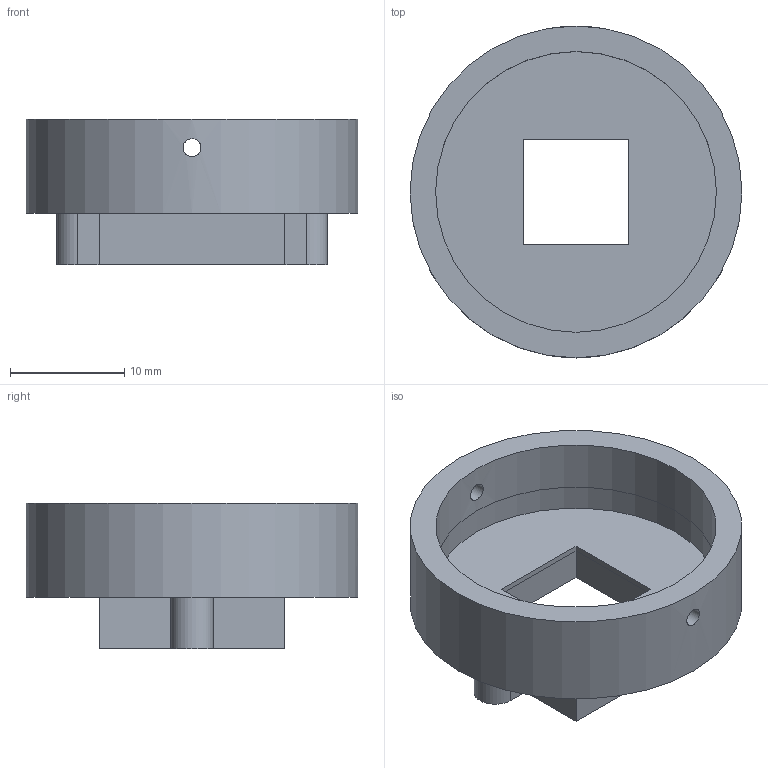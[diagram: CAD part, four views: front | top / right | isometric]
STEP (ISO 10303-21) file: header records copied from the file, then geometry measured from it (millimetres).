
FILE_DESCRIPTION( ( 'M12 LENS HOLDER' ), '1' );
FILE_NAME( 'D:/DropBox/Personal/M12 Lenses/TechData/SolidModels/PT-LH013CSM/PT-LH013CSM.stp', 'Unknown', ( 'Tharaka Goonetilleke' ), ( 'M12 Lenses Inc.' ), 'PSStep 13.0', 'Unknown', ' ' );
FILE_SCHEMA( ( 'AUTOMOTIVE_DESIGN { 1 0 10303 214 1 1 1 1 }' ) );
Length unit declared in the file: millimetre
Products named in the file (1): 1
Bounding box: 29 x 29 x 12.75 mm (x, y, z)
Volume: 2387.7 mm3; surface area: 3120.2 mm2
Topology: 1 solids, 1 shells, 40 faces, 94 edges, 60 vertices
Faces by surface type: plane 29, cylinder 11
Full cylindrical faces by diameter (mm): 1.567 x6, 24.541 x2, 29 x1
Entity records: 1518 total; most frequent: CARTESIAN_POINT 291, DIRECTION 176, ORIENTED_EDGE 166, EDGE_CURVE 83, LINE 64, VECTOR 64, EDGE_LOOP 60, VERTEX_POINT 59
